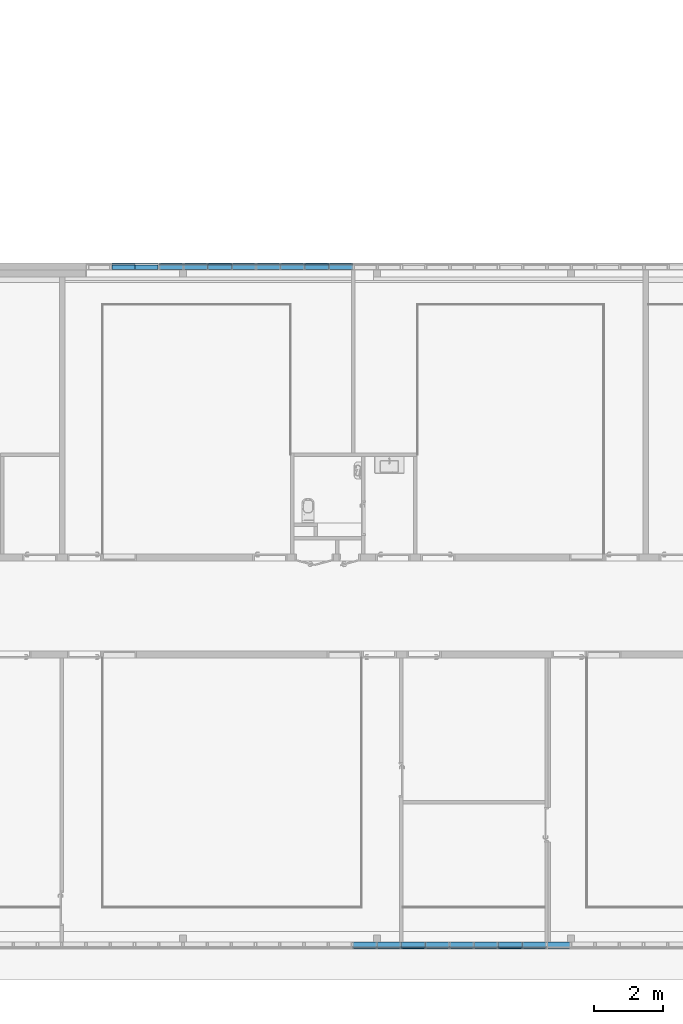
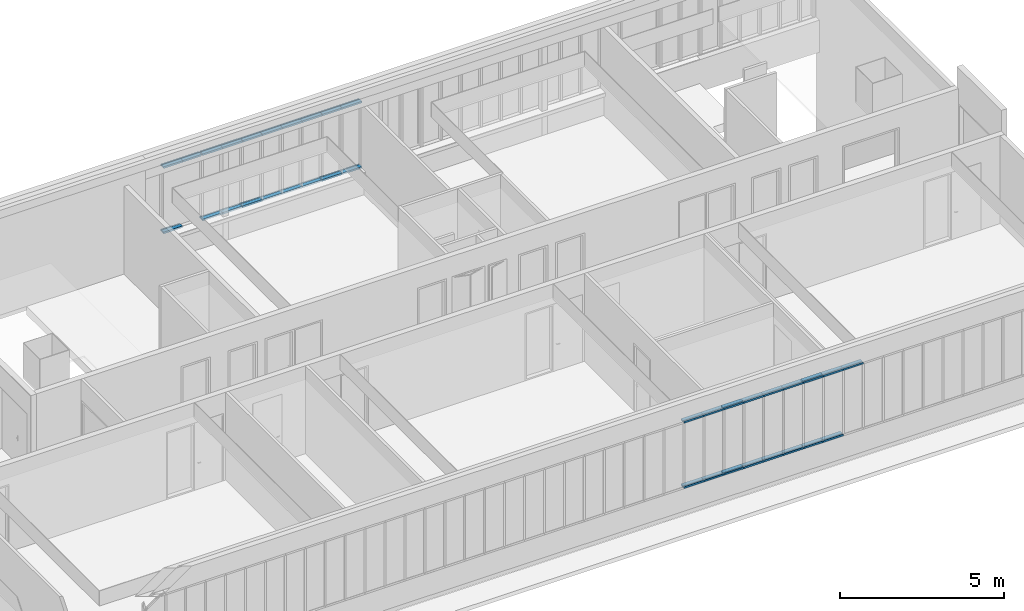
# One storey, part 16 of 87: 44 members, 2 elements without a shape of their own.
"""IFC2X3 building model written with IfcOpenShell, lengths in centimetres."""

from ifc_helpers import new_model, entity, si_unit, converted_unit, derived_unit, direction, frame, origin, place, context, subcontext, project, spatial, polyline, outline, extrude, source, transform, mapped, material, type_object, type_shapes, element, aggregate, save


model = new_model("IFC2X3")

# Units and contexts
model_context = context("Model", 3, precision=0.001, world=origin(), true_north=direction((6.12303176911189e-17, 1.0)))
body_context = subcontext(model_context, "Body", "Model", "MODEL_VIEW")
ifc_project = project(units=[si_unit("LENGTHUNIT", "METRE", prefix="CENTI"), si_unit("AREAUNIT", "SQUARE_METRE"), si_unit("VOLUMEUNIT", "CUBIC_METRE"), converted_unit("PLANEANGLEUNIT", "DEGREE", entity("IfcRatioMeasure", 0.0174532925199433), si_unit("PLANEANGLEUNIT", "RADIAN"), dimensions=[0, 0, 0, 0, 0, 0, 0]), si_unit("MASSUNIT", "GRAM", prefix="KILO"), derived_unit("MASSDENSITYUNIT", [(si_unit("MASSUNIT", "GRAM", prefix="KILO"), 1), (si_unit("LENGTHUNIT", "METRE"), -3)]), si_unit("TIMEUNIT", "SECOND"), si_unit("FREQUENCYUNIT", "HERTZ"), si_unit("THERMODYNAMICTEMPERATUREUNIT", "DEGREE_CELSIUS"), derived_unit("THERMALTRANSMITTANCEUNIT", [(si_unit("MASSUNIT", "GRAM", prefix="KILO"), 1), (si_unit("THERMODYNAMICTEMPERATUREUNIT", "KELVIN"), -1), (si_unit("TIMEUNIT", "SECOND"), -3)]), derived_unit("VOLUMETRICFLOWRATEUNIT", [(si_unit("LENGTHUNIT", "METRE"), 3), (si_unit("TIMEUNIT", "SECOND"), -1)]), si_unit("ELECTRICCURRENTUNIT", "AMPERE"), si_unit("ELECTRICVOLTAGEUNIT", "VOLT"), si_unit("POWERUNIT", "WATT"), si_unit("FORCEUNIT", "NEWTON", prefix="KILO"), si_unit("ILLUMINANCEUNIT", "LUX"), si_unit("LUMINOUSFLUXUNIT", "LUMEN"), si_unit("LUMINOUSINTENSITYUNIT", "CANDELA"), derived_unit("USERDEFINED", [(si_unit("MASSUNIT", "GRAM", prefix="KILO"), -1), (si_unit("LENGTHUNIT", "METRE"), -2), (si_unit("TIMEUNIT", "SECOND"), 3), (si_unit("LUMINOUSFLUXUNIT", "LUMEN"), 1)]), derived_unit("LINEARVELOCITYUNIT", [(si_unit("LENGTHUNIT", "METRE"), 1), (si_unit("TIMEUNIT", "SECOND"), -1)]), si_unit("PRESSUREUNIT", "PASCAL"), derived_unit("USERDEFINED", [(si_unit("LENGTHUNIT", "METRE"), -2), (si_unit("MASSUNIT", "GRAM", prefix="KILO"), 1), (si_unit("TIMEUNIT", "SECOND"), -2)])], contexts=[model_context])

# Site, building, storey
site_placement = place(None, frame((-2781.94577612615, 7442.24238424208, 0.0)))
site = spatial("IfcSite", under=ifc_project, at=site_placement, Name="Default", CompositionType="ELEMENT")
building_placement = place(site_placement, origin())
building = spatial("IfcBuilding", under=site, at=building_placement, CompositionType="ELEMENT")
storey_placement = place(building_placement, frame((0.0, 0.0, 774.0)))
storey = spatial("IfcBuildingStorey", under=building, at=storey_placement, Name="TR - N02 - ARCH", CompositionType="ELEMENT", Elevation=774.0)

# Curtain wall, members
curtain_wall_type = type_object("IfcCurtainWallType", Name="Mur-rideau:07 - mur rideau trame 70cm", PredefinedType="NOTDEFINED")
curtain_wall_1_placement = place(storey_placement, frame((0.0, 0.0, -774.0)))
curtain_wall_1 = element("IfcCurtainWall", 1, at=curtain_wall_1_placement, inside=storey, type_object=curtain_wall_type, Name="Mur-rideau:07 - mur rideau trame 70cm", ObjectType="Mur-rideau:07 - mur rideau trame 70cm")
ifc_material = material(Name="Aluminium")
member_type_1 = type_object("IfcMemberType", Name="150 x 25mm Détails", PredefinedType="MEMBER")
shared_shape_1 = source(origin(), body_context, "Body", "SweptSolid", [
    extrude(outline(polyline([(-5.6666666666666, -3.24999999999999), (-3.66666666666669, -3.24999999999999), (-3.66666666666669, -0.868749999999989), (-0.166666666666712, -0.868749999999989), (-0.166666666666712, -3.25000000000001), (13.3333333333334, -3.25000000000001), (13.3333333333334, 3.24999999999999), (-0.16666666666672, 3.24999999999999), (-0.16666666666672, 0.868749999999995), (-3.66666666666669, 0.868749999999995), (-3.66666666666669, 3.25), (-5.6666666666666, 3.25), (-5.6666666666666, -3.24999999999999)])), frame((-3.24999999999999, -1.96666666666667, -70.0), z_axis=(0.0, 0.0, 1.0), x_axis=(0.0, -1.0, 0.0)), (0.0, 0.0, 1.0), 69.9999999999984),
])
type_shapes(member_type_1, [shared_shape_1])
member_1_placement = place(storey_placement, frame((-1950.749882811, -3046.51349958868, 332.5), z_axis=(1.0, 0.0, 0.0), x_axis=(0.0, 0.0, 1.0)))
member_1 = element("IfcMember", 2, at=member_1_placement, type_object=member_type_1, material=ifc_material, Name="Meneau rectangulaire:150 x 25mm Détails", ObjectType="Meneau rectangulaire:150 x 25mm Détails", context=body_context, shape_type="MappedRepresentation", body=[
    mapped(shared_shape_1, transform((0.0, 0.0, 0.0), scale=1.0)),
])
member_2_placement = place(storey_placement, frame((-1880.749882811, -3046.51349958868, 332.5), z_axis=(1.0, 0.0, 0.0), x_axis=(0.0, 0.0, 1.0)))
member_2 = element("IfcMember", 3, at=member_2_placement, type_object=member_type_1, material=ifc_material, Name="Meneau rectangulaire:150 x 25mm Détails", ObjectType="Meneau rectangulaire:150 x 25mm Détails", context=body_context, shape_type="MappedRepresentation", body=[
    mapped(shared_shape_1, transform((0.0, 0.0, 0.0), scale=1.0)),
])
member_3_placement = place(storey_placement, frame((-1810.749882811, -3046.51349958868, 332.5), z_axis=(1.0, 0.0, 0.0), x_axis=(0.0, 0.0, 1.0)))
member_3 = element("IfcMember", 4, at=member_3_placement, type_object=member_type_1, material=ifc_material, Name="Meneau rectangulaire:150 x 25mm Détails", ObjectType="Meneau rectangulaire:150 x 25mm Détails", context=body_context, shape_type="MappedRepresentation", body=[
    mapped(shared_shape_1, transform((0.0, 0.0, 0.0), scale=1.0)),
])
member_4_placement = place(storey_placement, frame((-1740.749882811, -3046.51349958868, 332.5), z_axis=(1.0, 0.0, 0.0), x_axis=(0.0, 0.0, 1.0)))
member_4 = element("IfcMember", 5, at=member_4_placement, type_object=member_type_1, material=ifc_material, Name="Meneau rectangulaire:150 x 25mm Détails", ObjectType="Meneau rectangulaire:150 x 25mm Détails", context=body_context, shape_type="MappedRepresentation", body=[
    mapped(shared_shape_1, transform((0.0, 0.0, 0.0), scale=1.0)),
])
member_5_placement = place(storey_placement, frame((-1670.749882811, -3046.51349958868, 332.5), z_axis=(1.0, 0.0, 0.0), x_axis=(0.0, 0.0, 1.0)))
member_5 = element("IfcMember", 6, at=member_5_placement, type_object=member_type_1, material=ifc_material, Name="Meneau rectangulaire:150 x 25mm Détails", ObjectType="Meneau rectangulaire:150 x 25mm Détails", context=body_context, shape_type="MappedRepresentation", body=[
    mapped(shared_shape_1, transform((0.0, 0.0, 0.0), scale=1.0)),
])
member_6_placement = place(storey_placement, frame((-1600.749882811, -3046.51349958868, 332.5), z_axis=(1.0, 0.0, 0.0), x_axis=(0.0, 0.0, 1.0)))
member_6 = element("IfcMember", 7, at=member_6_placement, type_object=member_type_1, material=ifc_material, Name="Meneau rectangulaire:150 x 25mm Détails", ObjectType="Meneau rectangulaire:150 x 25mm Détails", context=body_context, shape_type="MappedRepresentation", body=[
    mapped(shared_shape_1, transform((0.0, 0.0, 0.0), scale=1.0)),
])
member_7_placement = place(storey_placement, frame((-1530.749882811, -3046.51349958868, 332.5), z_axis=(1.0, 0.0, 0.0), x_axis=(0.0, 0.0, 1.0)))
member_7 = element("IfcMember", 8, at=member_7_placement, type_object=member_type_1, material=ifc_material, Name="Meneau rectangulaire:150 x 25mm Détails", ObjectType="Meneau rectangulaire:150 x 25mm Détails", context=body_context, shape_type="MappedRepresentation", body=[
    mapped(shared_shape_1, transform((0.0, 0.0, 0.0), scale=1.0)),
])
member_8_placement = place(storey_placement, frame((-1460.749882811, -3046.51349958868, 332.5), z_axis=(1.0, 0.0, 0.0), x_axis=(0.0, 0.0, 1.0)))
member_8 = element("IfcMember", 9, at=member_8_placement, type_object=member_type_1, material=ifc_material, Name="Meneau rectangulaire:150 x 25mm Détails", ObjectType="Meneau rectangulaire:150 x 25mm Détails", context=body_context, shape_type="MappedRepresentation", body=[
    mapped(shared_shape_1, transform((0.0, 0.0, 0.0), scale=1.0)),
])
member_9_placement = place(storey_placement, frame((-1390.749882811, -3046.51349958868, 332.5), z_axis=(1.0, 0.0, 0.0), x_axis=(0.0, 0.0, 1.0)))
member_9 = element("IfcMember", 10, at=member_9_placement, type_object=member_type_1, material=ifc_material, Name="Meneau rectangulaire:150 x 25mm Détails", ObjectType="Meneau rectangulaire:150 x 25mm Détails", context=body_context, shape_type="MappedRepresentation", body=[
    mapped(shared_shape_1, transform((0.0, 0.0, 0.0), scale=1.0)),
])
member_type_2 = type_object("IfcMemberType", Name="150 x 25mm Détails", PredefinedType="MEMBER")
shared_shape_2 = source(origin(), body_context, "Body", "SweptSolid", [
    extrude(outline(polyline([(-5.66666666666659, -3.25), (-3.66666666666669, -3.25), (-3.66666666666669, -0.868749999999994), (-0.166666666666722, -0.868749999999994), (-0.166666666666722, -3.25000000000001), (13.3333333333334, -3.24999999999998), (13.3333333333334, 3.25000000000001), (-0.166666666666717, 3.25000000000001), (-0.166666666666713, 0.868749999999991), (-3.66666666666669, 0.868749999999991), (-3.66666666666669, 3.24999999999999), (-5.66666666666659, 3.24999999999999), (-5.66666666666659, -3.25)])), frame((-3.24999999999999, -1.96666666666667, -70.0), z_axis=(0.0, 0.0, 1.0), x_axis=(0.0, -1.0, 0.0)), (0.0, 0.0, 1.0), 69.9999999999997),
])
type_shapes(member_type_2, [shared_shape_2])
member_10_placement = place(storey_placement, frame((-2020.749882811, -3046.51349958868, 83.5000000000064), z_axis=(-1.0, 0.0, 0.0), x_axis=(0.0, 0.0, -1.0)))
member_10 = element("IfcMember", 11, at=member_10_placement, type_object=member_type_2, material=ifc_material, Name="Meneau rectangulaire:150 x 25mm Détails", ObjectType="Meneau rectangulaire:150 x 25mm Détails", context=body_context, shape_type="MappedRepresentation", body=[
    mapped(shared_shape_2, transform((0.0, 0.0, 0.0), scale=1.0)),
])
member_11_placement = place(storey_placement, frame((-1950.749882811, -3046.51349958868, 83.5000000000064), z_axis=(-1.0, 0.0, 0.0), x_axis=(0.0, 0.0, -1.0)))
member_11 = element("IfcMember", 12, at=member_11_placement, type_object=member_type_2, material=ifc_material, Name="Meneau rectangulaire:150 x 25mm Détails", ObjectType="Meneau rectangulaire:150 x 25mm Détails", context=body_context, shape_type="MappedRepresentation", body=[
    mapped(shared_shape_2, transform((0.0, 0.0, 0.0), scale=1.0)),
])
member_12_placement = place(storey_placement, frame((-1880.749882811, -3046.51349958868, 83.5000000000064), z_axis=(-1.0, 0.0, 0.0), x_axis=(0.0, 0.0, -1.0)))
member_12 = element("IfcMember", 13, at=member_12_placement, type_object=member_type_2, material=ifc_material, Name="Meneau rectangulaire:150 x 25mm Détails", ObjectType="Meneau rectangulaire:150 x 25mm Détails", context=body_context, shape_type="MappedRepresentation", body=[
    mapped(shared_shape_2, transform((0.0, 0.0, 0.0), scale=1.0)),
])
member_13_placement = place(storey_placement, frame((-1810.749882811, -3046.51349958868, 83.5000000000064), z_axis=(-1.0, 0.0, 0.0), x_axis=(0.0, 0.0, -1.0)))
member_13 = element("IfcMember", 14, at=member_13_placement, type_object=member_type_2, material=ifc_material, Name="Meneau rectangulaire:150 x 25mm Détails", ObjectType="Meneau rectangulaire:150 x 25mm Détails", context=body_context, shape_type="MappedRepresentation", body=[
    mapped(shared_shape_2, transform((0.0, 0.0, 0.0), scale=1.0)),
])
member_14_placement = place(storey_placement, frame((-1740.749882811, -3046.51349958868, 83.5000000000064), z_axis=(-1.0, 0.0, 0.0), x_axis=(0.0, 0.0, -1.0)))
member_14 = element("IfcMember", 15, at=member_14_placement, type_object=member_type_2, material=ifc_material, Name="Meneau rectangulaire:150 x 25mm Détails", ObjectType="Meneau rectangulaire:150 x 25mm Détails", context=body_context, shape_type="MappedRepresentation", body=[
    mapped(shared_shape_2, transform((0.0, 0.0, 0.0), scale=1.0)),
])
member_15_placement = place(storey_placement, frame((-1670.749882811, -3046.51349958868, 83.5000000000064), z_axis=(-1.0, 0.0, 0.0), x_axis=(0.0, 0.0, -1.0)))
member_15 = element("IfcMember", 16, at=member_15_placement, type_object=member_type_2, material=ifc_material, Name="Meneau rectangulaire:150 x 25mm Détails", ObjectType="Meneau rectangulaire:150 x 25mm Détails", context=body_context, shape_type="MappedRepresentation", body=[
    mapped(shared_shape_2, transform((0.0, 0.0, 0.0), scale=1.0)),
])
member_16_placement = place(storey_placement, frame((-1600.749882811, -3046.51349958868, 83.5000000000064), z_axis=(-1.0, 0.0, 0.0), x_axis=(0.0, 0.0, -1.0)))
member_16 = element("IfcMember", 17, at=member_16_placement, type_object=member_type_2, material=ifc_material, Name="Meneau rectangulaire:150 x 25mm Détails", ObjectType="Meneau rectangulaire:150 x 25mm Détails", context=body_context, shape_type="MappedRepresentation", body=[
    mapped(shared_shape_2, transform((0.0, 0.0, 0.0), scale=1.0)),
])
member_17_placement = place(storey_placement, frame((-1530.749882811, -3046.51349958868, 83.5000000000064), z_axis=(-1.0, 0.0, 0.0), x_axis=(0.0, 0.0, -1.0)))
member_17 = element("IfcMember", 18, at=member_17_placement, type_object=member_type_2, material=ifc_material, Name="Meneau rectangulaire:150 x 25mm Détails", ObjectType="Meneau rectangulaire:150 x 25mm Détails", context=body_context, shape_type="MappedRepresentation", body=[
    mapped(shared_shape_2, transform((0.0, 0.0, 0.0), scale=1.0)),
])
member_type_3 = type_object("IfcMemberType", Name="150 x 25mm Détails", PredefinedType="MEMBER")
shared_shape_3 = source(origin(), body_context, "Body", "SweptSolid", [
    extrude(outline(polyline([(-5.66666666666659, -3.25), (-3.66666666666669, -3.25), (-3.66666666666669, -0.868749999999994), (-0.166666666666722, -0.868749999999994), (-0.166666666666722, -3.25000000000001), (13.3333333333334, -3.24999999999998), (13.3333333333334, 3.25000000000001), (-0.166666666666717, 3.25000000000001), (-0.166666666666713, 0.868749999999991), (-3.66666666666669, 0.868749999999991), (-3.66666666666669, 3.24999999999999), (-5.66666666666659, 3.24999999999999), (-5.66666666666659, -3.25)])), frame((-3.24999999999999, -1.96666666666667, -68.0), z_axis=(0.0, 0.0, 1.0), x_axis=(0.0, -1.0, 0.0)), (0.0, 0.0, 1.0), 68.0000000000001),
])
type_shapes(member_type_3, [shared_shape_3])
member_18_placement = place(storey_placement, frame((-1599.99987760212, -3046.51349958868, 326.0), z_axis=(-1.0, 0.0, 0.0), x_axis=(0.0, 0.0, -1.0)))
member_18 = element("IfcMember", 19, at=member_18_placement, type_object=member_type_3, material=ifc_material, Name="Meneau rectangulaire:150 x 25mm Détails", ObjectType="Meneau rectangulaire:150 x 25mm Détails", context=body_context, shape_type="MappedRepresentation", body=[
    mapped(shared_shape_3, transform((0.0, 0.0, 0.0), scale=1.0)),
])
member_19_placement = place(storey_placement, frame((-1879.99987760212, -3046.51349958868, 326.0), z_axis=(-1.0, 0.0, 0.0), x_axis=(0.0, 0.0, -1.0)))
member_19 = element("IfcMember", 20, at=member_19_placement, type_object=member_type_3, material=ifc_material, Name="Meneau rectangulaire:150 x 25mm Détails", ObjectType="Meneau rectangulaire:150 x 25mm Détails", context=body_context, shape_type="MappedRepresentation", body=[
    mapped(shared_shape_3, transform((0.0, 0.0, 0.0), scale=1.0)),
])
member_type_4 = type_object("IfcMemberType", Name="150 x 25mm Détails", PredefinedType="MEMBER")
shared_shape_4 = source(origin(), body_context, "Body", "SweptSolid", [
    extrude(outline(polyline([(-5.6666666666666, -3.24999999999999), (-3.66666666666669, -3.24999999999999), (-3.66666666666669, -0.868749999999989), (-0.166666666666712, -0.868749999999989), (-0.166666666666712, -3.25000000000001), (13.3333333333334, -3.25000000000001), (13.3333333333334, 3.24999999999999), (-0.16666666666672, 3.24999999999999), (-0.16666666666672, 0.868749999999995), (-3.66666666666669, 0.868749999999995), (-3.66666666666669, 3.25), (-5.6666666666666, 3.25), (-5.6666666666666, -3.24999999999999)])), frame((-3.24999999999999, -1.96666666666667, -68.0), z_axis=(0.0, 0.0, 1.0), x_axis=(0.0, -1.0, 0.0)), (0.0, 0.0, 1.0), 68.0000000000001),
])
type_shapes(member_type_4, [shared_shape_4])
member_20_placement = place(storey_placement, frame((-1531.99987760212, -3046.51349958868, 90.0), z_axis=(1.0, 0.0, 0.0), x_axis=(0.0, 0.0, 1.0)))
member_20 = element("IfcMember", 21, at=member_20_placement, type_object=member_type_4, material=ifc_material, Name="Meneau rectangulaire:150 x 25mm Détails", ObjectType="Meneau rectangulaire:150 x 25mm Détails", context=body_context, shape_type="MappedRepresentation", body=[
    mapped(shared_shape_4, transform((0.0, 0.0, 0.0), scale=1.0)),
])
member_21_placement = place(storey_placement, frame((-1811.99987760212, -3046.51349958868, 90.0), z_axis=(1.0, 0.0, 0.0), x_axis=(0.0, 0.0, 1.0)))
member_21 = element("IfcMember", 22, at=member_21_placement, type_object=member_type_4, material=ifc_material, Name="Meneau rectangulaire:150 x 25mm Détails", ObjectType="Meneau rectangulaire:150 x 25mm Détails", context=body_context, shape_type="MappedRepresentation", body=[
    mapped(shared_shape_4, transform((0.0, 0.0, 0.0), scale=1.0)),
])
aggregate(curtain_wall_1, [member_1, member_2, member_3, member_4, member_5, member_6, member_7, member_8, member_9, member_10, member_11, member_12, member_13, member_14, member_15, member_16, member_17, member_18, member_20, member_19, member_21])

curtain_wall_2_placement = place(storey_placement, frame((0.0, 0.0, -774.0)))
curtain_wall_2 = element("IfcCurtainWall", 23, at=curtain_wall_2_placement, inside=storey, type_object=curtain_wall_type, Name="Mur-rideau:07 - mur rideau trame 70cm", ObjectType="Mur-rideau:07 - mur rideau trame 70cm")
member_type_5 = type_object("IfcMemberType", Name="150 x 25mm Détails", PredefinedType="MEMBER")
shared_shape_5 = source(origin(), body_context, "Body", "SweptSolid", [
    extrude(outline(polyline([(-13.3333333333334, -3.25000000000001), (0.166666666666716, -3.25000000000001), (0.166666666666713, -0.86874999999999), (3.66666666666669, -0.86874999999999), (3.66666666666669, -3.24999999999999), (5.66666666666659, -3.24999999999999), (5.66666666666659, 3.25), (3.66666666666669, 3.25), (3.66666666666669, 0.868749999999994), (0.166666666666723, 0.868749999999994), (0.166666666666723, 3.25000000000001), (-13.3333333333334, 3.24999999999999), (-13.3333333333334, -3.25000000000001)])), frame((-3.24999999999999, 1.96666666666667, -70.0), z_axis=(0.0, 0.0, 1.0), x_axis=(0.0, -1.0, 0.0)), (0.0, 0.0, 1.0), 69.9999999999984),
])
type_shapes(member_type_5, [shared_shape_5])
member_22_placement = place(storey_placement, frame((-2509.29988284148, -1073.7999999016, 332.5), z_axis=(1.0, 0.0, 0.0), x_axis=(0.0, 0.0, 1.0)))
member_22 = element("IfcMember", 24, at=member_22_placement, type_object=member_type_5, material=ifc_material, Name="Meneau rectangulaire:150 x 25mm Détails", ObjectType="Meneau rectangulaire:150 x 25mm Détails", context=body_context, shape_type="MappedRepresentation", body=[
    mapped(shared_shape_5, transform((0.0, 0.0, 0.0), scale=1.0)),
])
member_23_placement = place(storey_placement, frame((-2439.29988284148, -1073.7999999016, 332.5), z_axis=(1.0, 0.0, 0.0), x_axis=(0.0, 0.0, 1.0)))
member_23 = element("IfcMember", 25, at=member_23_placement, type_object=member_type_5, material=ifc_material, Name="Meneau rectangulaire:150 x 25mm Détails", ObjectType="Meneau rectangulaire:150 x 25mm Détails", context=body_context, shape_type="MappedRepresentation", body=[
    mapped(shared_shape_5, transform((0.0, 0.0, 0.0), scale=1.0)),
])
member_24_placement = place(storey_placement, frame((-2369.29988284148, -1073.7999999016, 332.5), z_axis=(1.0, 0.0, 0.0), x_axis=(0.0, 0.0, 1.0)))
member_24 = element("IfcMember", 26, at=member_24_placement, type_object=member_type_5, material=ifc_material, Name="Meneau rectangulaire:150 x 25mm Détails", ObjectType="Meneau rectangulaire:150 x 25mm Détails", context=body_context, shape_type="MappedRepresentation", body=[
    mapped(shared_shape_5, transform((0.0, 0.0, 0.0), scale=1.0)),
])
member_25_placement = place(storey_placement, frame((-2299.29988284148, -1073.7999999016, 332.5), z_axis=(1.0, 0.0, 0.0), x_axis=(0.0, 0.0, 1.0)))
member_25 = element("IfcMember", 27, at=member_25_placement, type_object=member_type_5, material=ifc_material, Name="Meneau rectangulaire:150 x 25mm Détails", ObjectType="Meneau rectangulaire:150 x 25mm Détails", context=body_context, shape_type="MappedRepresentation", body=[
    mapped(shared_shape_5, transform((0.0, 0.0, 0.0), scale=1.0)),
])
member_26_placement = place(storey_placement, frame((-2229.29988284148, -1073.7999999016, 332.5), z_axis=(1.0, 0.0, 0.0), x_axis=(0.0, 0.0, 1.0)))
member_26 = element("IfcMember", 28, at=member_26_placement, type_object=member_type_5, material=ifc_material, Name="Meneau rectangulaire:150 x 25mm Détails", ObjectType="Meneau rectangulaire:150 x 25mm Détails", context=body_context, shape_type="MappedRepresentation", body=[
    mapped(shared_shape_5, transform((0.0, 0.0, 0.0), scale=1.0)),
])
member_27_placement = place(storey_placement, frame((-2159.29988284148, -1073.7999999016, 332.5), z_axis=(1.0, 0.0, 0.0), x_axis=(0.0, 0.0, 1.0)))
member_27 = element("IfcMember", 29, at=member_27_placement, type_object=member_type_5, material=ifc_material, Name="Meneau rectangulaire:150 x 25mm Détails", ObjectType="Meneau rectangulaire:150 x 25mm Détails", context=body_context, shape_type="MappedRepresentation", body=[
    mapped(shared_shape_5, transform((0.0, 0.0, 0.0), scale=1.0)),
])
member_28_placement = place(storey_placement, frame((-2089.29988284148, -1073.7999999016, 332.5), z_axis=(1.0, 0.0, 0.0), x_axis=(0.0, 0.0, 1.0)))
member_28 = element("IfcMember", 30, at=member_28_placement, type_object=member_type_5, material=ifc_material, Name="Meneau rectangulaire:150 x 25mm Détails", ObjectType="Meneau rectangulaire:150 x 25mm Détails", context=body_context, shape_type="MappedRepresentation", body=[
    mapped(shared_shape_5, transform((0.0, 0.0, 0.0), scale=1.0)),
])
member_29_placement = place(storey_placement, frame((-2019.29988284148, -1073.7999999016, 332.5), z_axis=(1.0, 0.0, 0.0), x_axis=(0.0, 0.0, 1.0)))
member_29 = element("IfcMember", 31, at=member_29_placement, type_object=member_type_5, material=ifc_material, Name="Meneau rectangulaire:150 x 25mm Détails", ObjectType="Meneau rectangulaire:150 x 25mm Détails", context=body_context, shape_type="MappedRepresentation", body=[
    mapped(shared_shape_5, transform((0.0, 0.0, 0.0), scale=1.0)),
])
member_type_6 = type_object("IfcMemberType", Name="150 x 25mm Détails", PredefinedType="MEMBER")
shared_shape_6 = source(origin(), body_context, "Body", "SweptSolid", [
    extrude(outline(polyline([(-13.3333333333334, -3.24999999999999), (0.166666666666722, -3.24999999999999), (0.166666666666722, -0.868749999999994), (3.66666666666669, -0.868749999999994), (3.66666666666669, -3.25), (5.66666666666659, -3.25), (5.66666666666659, 3.24999999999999), (3.66666666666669, 3.24999999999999), (3.66666666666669, 0.86874999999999), (0.166666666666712, 0.86874999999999), (0.166666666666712, 3.25000000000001), (-13.3333333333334, 3.25000000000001), (-13.3333333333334, -3.24999999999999)])), frame((-3.24999999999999, 1.96666666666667, -70.0), z_axis=(0.0, 0.0, 1.0), x_axis=(0.0, -1.0, 0.0)), (0.0, 0.0, 1.0), 69.9999999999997),
])
type_shapes(member_type_6, [shared_shape_6])
member_30_placement = place(storey_placement, frame((-2579.29988284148, -1073.7999999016, 83.5), z_axis=(-1.0, 0.0, 0.0), x_axis=(0.0, 0.0, -1.0)))
member_30 = element("IfcMember", 32, at=member_30_placement, type_object=member_type_6, material=ifc_material, Name="Meneau rectangulaire:150 x 25mm Détails", ObjectType="Meneau rectangulaire:150 x 25mm Détails", context=body_context, shape_type="MappedRepresentation", body=[
    mapped(shared_shape_6, transform((0.0, 0.0, 0.0), scale=1.0)),
])
member_31_placement = place(storey_placement, frame((-2509.29988284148, -1073.7999999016, 83.5), z_axis=(-1.0, 0.0, 0.0), x_axis=(0.0, 0.0, -1.0)))
member_31 = element("IfcMember", 33, at=member_31_placement, type_object=member_type_6, material=ifc_material, Name="Meneau rectangulaire:150 x 25mm Détails", ObjectType="Meneau rectangulaire:150 x 25mm Détails", context=body_context, shape_type="MappedRepresentation", body=[
    mapped(shared_shape_6, transform((0.0, 0.0, 0.0), scale=1.0)),
])
member_32_placement = place(storey_placement, frame((-2439.29988284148, -1073.7999999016, 83.5), z_axis=(-1.0, 0.0, 0.0), x_axis=(0.0, 0.0, -1.0)))
member_32 = element("IfcMember", 34, at=member_32_placement, type_object=member_type_6, material=ifc_material, Name="Meneau rectangulaire:150 x 25mm Détails", ObjectType="Meneau rectangulaire:150 x 25mm Détails", context=body_context, shape_type="MappedRepresentation", body=[
    mapped(shared_shape_6, transform((0.0, 0.0, 0.0), scale=1.0)),
])
member_33_placement = place(storey_placement, frame((-2369.29988284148, -1073.7999999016, 83.5), z_axis=(-1.0, 0.0, 0.0), x_axis=(0.0, 0.0, -1.0)))
member_33 = element("IfcMember", 35, at=member_33_placement, type_object=member_type_6, material=ifc_material, Name="Meneau rectangulaire:150 x 25mm Détails", ObjectType="Meneau rectangulaire:150 x 25mm Détails", context=body_context, shape_type="MappedRepresentation", body=[
    mapped(shared_shape_6, transform((0.0, 0.0, 0.0), scale=1.0)),
])
member_34_placement = place(storey_placement, frame((-2299.29988284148, -1073.7999999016, 83.5), z_axis=(-1.0, 0.0, 0.0), x_axis=(0.0, 0.0, -1.0)))
member_34 = element("IfcMember", 36, at=member_34_placement, type_object=member_type_6, material=ifc_material, Name="Meneau rectangulaire:150 x 25mm Détails", ObjectType="Meneau rectangulaire:150 x 25mm Détails", context=body_context, shape_type="MappedRepresentation", body=[
    mapped(shared_shape_6, transform((0.0, 0.0, 0.0), scale=1.0)),
])
member_35_placement = place(storey_placement, frame((-2229.29988284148, -1073.7999999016, 83.5), z_axis=(-1.0, 0.0, 0.0), x_axis=(0.0, 0.0, -1.0)))
member_35 = element("IfcMember", 37, at=member_35_placement, type_object=member_type_6, material=ifc_material, Name="Meneau rectangulaire:150 x 25mm Détails", ObjectType="Meneau rectangulaire:150 x 25mm Détails", context=body_context, shape_type="MappedRepresentation", body=[
    mapped(shared_shape_6, transform((0.0, 0.0, 0.0), scale=1.0)),
])
member_36_placement = place(storey_placement, frame((-2159.29988284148, -1073.7999999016, 83.5), z_axis=(-1.0, 0.0, 0.0), x_axis=(0.0, 0.0, -1.0)))
member_36 = element("IfcMember", 38, at=member_36_placement, type_object=member_type_6, material=ifc_material, Name="Meneau rectangulaire:150 x 25mm Détails", ObjectType="Meneau rectangulaire:150 x 25mm Détails", context=body_context, shape_type="MappedRepresentation", body=[
    mapped(shared_shape_6, transform((0.0, 0.0, 0.0), scale=1.0)),
])
member_37_placement = place(storey_placement, frame((-2089.29988284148, -1073.7999999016, 83.5), z_axis=(-1.0, 0.0, 0.0), x_axis=(0.0, 0.0, -1.0)))
member_37 = element("IfcMember", 39, at=member_37_placement, type_object=member_type_6, material=ifc_material, Name="Meneau rectangulaire:150 x 25mm Détails", ObjectType="Meneau rectangulaire:150 x 25mm Détails", context=body_context, shape_type="MappedRepresentation", body=[
    mapped(shared_shape_6, transform((0.0, 0.0, 0.0), scale=1.0)),
])
member_type_7 = type_object("IfcMemberType", Name="150 x 25mm Détails", PredefinedType="MEMBER")
shared_shape_7 = source(origin(), body_context, "Body", "SweptSolid", [
    extrude(outline(polyline([(-13.3333333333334, -3.25000000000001), (0.166666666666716, -3.25000000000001), (0.166666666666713, -0.86874999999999), (3.66666666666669, -0.86874999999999), (3.66666666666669, -3.24999999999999), (5.66666666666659, -3.24999999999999), (5.66666666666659, 3.25), (3.66666666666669, 3.25), (3.66666666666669, 0.868749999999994), (0.166666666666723, 0.868749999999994), (0.166666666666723, 3.25000000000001), (-13.3333333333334, 3.24999999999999), (-13.3333333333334, -3.25000000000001)])), frame((-3.24999999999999, 1.96666666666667, -68.0), z_axis=(0.0, 0.0, 1.0), x_axis=(0.0, -1.0, 0.0)), (0.0, 0.0, 1.0), 67.9999999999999),
])
type_shapes(member_type_7, [shared_shape_7])
member_38_placement = place(storey_placement, frame((-2370.26863284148, -1073.7999999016, 90.0), z_axis=(1.0, 0.0, 0.0), x_axis=(0.0, 0.0, 1.0)))
member_38 = element("IfcMember", 40, at=member_38_placement, type_object=member_type_7, material=ifc_material, Name="Meneau rectangulaire:150 x 25mm Détails", ObjectType="Meneau rectangulaire:150 x 25mm Détails", context=body_context, shape_type="MappedRepresentation", body=[
    mapped(shared_shape_7, transform((0.0, 0.0, 0.0), scale=1.0)),
])
member_39_placement = place(storey_placement, frame((-2090.26863284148, -1073.7999999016, 90.0), z_axis=(1.0, 0.0, 0.0), x_axis=(0.0, 0.0, 1.0)))
member_39 = element("IfcMember", 41, at=member_39_placement, type_object=member_type_7, material=ifc_material, Name="Meneau rectangulaire:150 x 25mm Détails", ObjectType="Meneau rectangulaire:150 x 25mm Détails", context=body_context, shape_type="MappedRepresentation", body=[
    mapped(shared_shape_7, transform((0.0, 0.0, 0.0), scale=1.0)),
])
member_type_8 = type_object("IfcMemberType", Name="150 x 25mm Détails", PredefinedType="MEMBER")
shared_shape_8 = source(origin(), body_context, "Body", "SweptSolid", [
    extrude(outline(polyline([(-13.3333333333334, -3.24999999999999), (0.166666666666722, -3.24999999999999), (0.166666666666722, -0.868749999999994), (3.66666666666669, -0.868749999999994), (3.66666666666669, -3.25), (5.66666666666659, -3.25), (5.66666666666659, 3.24999999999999), (3.66666666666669, 3.24999999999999), (3.66666666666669, 0.86874999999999), (0.166666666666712, 0.86874999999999), (0.166666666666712, 3.25000000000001), (-13.3333333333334, 3.25000000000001), (-13.3333333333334, -3.24999999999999)])), frame((-3.24999999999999, 1.96666666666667, -68.0), z_axis=(0.0, 0.0, 1.0), x_axis=(0.0, -1.0, 0.0)), (0.0, 0.0, 1.0), 67.9999999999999),
])
type_shapes(member_type_8, [shared_shape_8])
member_40_placement = place(storey_placement, frame((-2438.26863284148, -1073.7999999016, 326.0), z_axis=(-1.0, 0.0, 0.0), x_axis=(0.0, 0.0, -1.0)))
member_40 = element("IfcMember", 42, at=member_40_placement, type_object=member_type_8, material=ifc_material, Name="Meneau rectangulaire:150 x 25mm Détails", ObjectType="Meneau rectangulaire:150 x 25mm Détails", context=body_context, shape_type="MappedRepresentation", body=[
    mapped(shared_shape_8, transform((0.0, 0.0, 0.0), scale=1.0)),
])
member_41_placement = place(storey_placement, frame((-2158.26863284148, -1073.7999999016, 326.0), z_axis=(-1.0, 0.0, 0.0), x_axis=(0.0, 0.0, -1.0)))
member_41 = element("IfcMember", 43, at=member_41_placement, type_object=member_type_8, material=ifc_material, Name="Meneau rectangulaire:150 x 25mm Détails", ObjectType="Meneau rectangulaire:150 x 25mm Détails", context=body_context, shape_type="MappedRepresentation", body=[
    mapped(shared_shape_8, transform((0.0, 0.0, 0.0), scale=1.0)),
])
member_type_9 = type_object("IfcMemberType", Name="150 x 25mm Détails", PredefinedType="MEMBER")
shared_shape_9 = source(origin(), body_context, "Body", "SweptSolid", [
    extrude(outline(polyline([(-13.3333333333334, -3.24999999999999), (0.166666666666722, -3.24999999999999), (0.166666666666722, -0.868749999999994), (3.66666666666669, -0.868749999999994), (3.66666666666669, -3.25), (5.66666666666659, -3.25), (5.66666666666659, 3.24999999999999), (3.66666666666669, 3.24999999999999), (3.66666666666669, 0.86874999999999), (0.166666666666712, 0.86874999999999), (0.166666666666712, 3.25000000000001), (-13.3333333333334, 3.25000000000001), (-13.3333333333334, -3.24999999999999)])), frame((-3.24999999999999, 1.96666666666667, -66.7499999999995), z_axis=(0.0, 0.0, 1.0), x_axis=(0.0, -1.0, 0.0)), (0.0, 0.0, 1.0), 66.7499999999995),
])
type_shapes(member_type_9, [shared_shape_9])
member_42_placement = place(storey_placement, frame((-2716.04988284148, -1073.7999999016, 326.0), z_axis=(-1.0, 0.0, 0.0), x_axis=(0.0, 0.0, -1.0)))
member_42 = element("IfcMember", 44, at=member_42_placement, type_object=member_type_9, material=ifc_material, Name="Meneau rectangulaire:150 x 25mm Détails", ObjectType="Meneau rectangulaire:150 x 25mm Détails", context=body_context, shape_type="MappedRepresentation", body=[
    mapped(shared_shape_9, transform((0.0, 0.0, 0.0), scale=1.0)),
])
member_type_10 = type_object("IfcMemberType", Name="150 x 25mm Détails", PredefinedType="MEMBER")
shared_shape_10 = source(origin(), body_context, "Body", "SweptSolid", [
    extrude(outline(polyline([(-13.3333333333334, -3.24999999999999), (0.166666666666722, -3.24999999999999), (0.166666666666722, -0.868749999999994), (3.66666666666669, -0.868749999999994), (3.66666666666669, -3.25), (5.66666666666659, -3.25), (5.66666666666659, 3.24999999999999), (3.66666666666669, 3.24999999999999), (3.66666666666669, 0.86874999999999), (0.166666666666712, 0.86874999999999), (0.166666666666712, 3.25000000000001), (-13.3333333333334, 3.25000000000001), (-13.3333333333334, -3.24999999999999)])), frame((-3.24999999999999, 1.96666666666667, -66.7500000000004), z_axis=(0.0, 0.0, 1.0), x_axis=(0.0, -1.0, 0.0)), (0.0, 0.0, 1.0), 66.7500000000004),
])
type_shapes(member_type_10, [shared_shape_10])
member_43_placement = place(storey_placement, frame((-2649.29988284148, -1073.7999999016, 326.0), z_axis=(-1.0, 0.0, 0.0), x_axis=(0.0, 0.0, -1.0)))
member_43 = element("IfcMember", 45, at=member_43_placement, type_object=member_type_10, material=ifc_material, Name="Meneau rectangulaire:150 x 25mm Détails", ObjectType="Meneau rectangulaire:150 x 25mm Détails", context=body_context, shape_type="MappedRepresentation", body=[
    mapped(shared_shape_10, transform((0.0, 0.0, 0.0), scale=1.0)),
])
member_type_11 = type_object("IfcMemberType", Name="150 x 25mm Détails", PredefinedType="MEMBER")
shared_shape_11 = source(origin(), body_context, "Body", "SweptSolid", [
    extrude(outline(polyline([(-13.3333333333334, -3.25000000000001), (0.166666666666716, -3.25000000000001), (0.166666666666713, -0.86874999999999), (3.66666666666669, -0.86874999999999), (3.66666666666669, -3.24999999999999), (5.66666666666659, -3.24999999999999), (5.66666666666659, 3.25), (3.66666666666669, 3.25), (3.66666666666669, 0.868749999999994), (0.166666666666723, 0.868749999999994), (0.166666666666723, 3.25000000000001), (-13.3333333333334, 3.24999999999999), (-13.3333333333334, -3.25000000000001)])), frame((-3.24999999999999, 1.96666666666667, -66.7499999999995), z_axis=(0.0, 0.0, 1.0), x_axis=(0.0, -1.0, 0.0)), (0.0, 0.0, 1.0), 66.7499999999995),
])
type_shapes(member_type_11, [shared_shape_11])
member_44_placement = place(storey_placement, frame((-2649.29988284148, -1073.7999999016, 90.0), z_axis=(1.0, 0.0, 0.0), x_axis=(0.0, 0.0, 1.0)))
member_44 = element("IfcMember", 46, at=member_44_placement, type_object=member_type_11, material=ifc_material, Name="Meneau rectangulaire:150 x 25mm Détails", ObjectType="Meneau rectangulaire:150 x 25mm Détails", context=body_context, shape_type="MappedRepresentation", body=[
    mapped(shared_shape_11, transform((0.0, 0.0, 0.0), scale=1.0)),
])
aggregate(curtain_wall_2, [member_22, member_23, member_24, member_25, member_26, member_27, member_28, member_29, member_30, member_31, member_32, member_33, member_34, member_35, member_36, member_37, member_40, member_41, member_38, member_39, member_43, member_42, member_44])

save(model, "model.ifc")
